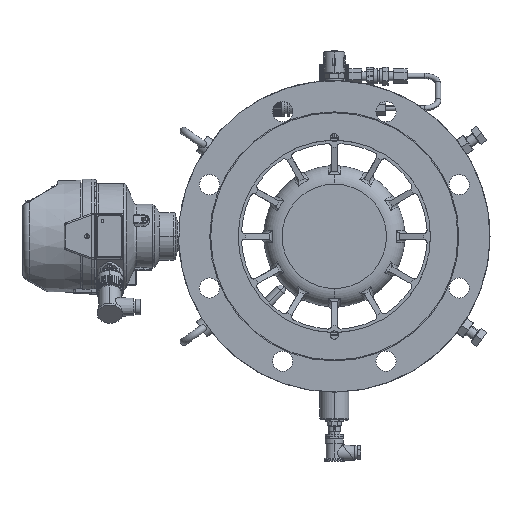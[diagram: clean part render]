
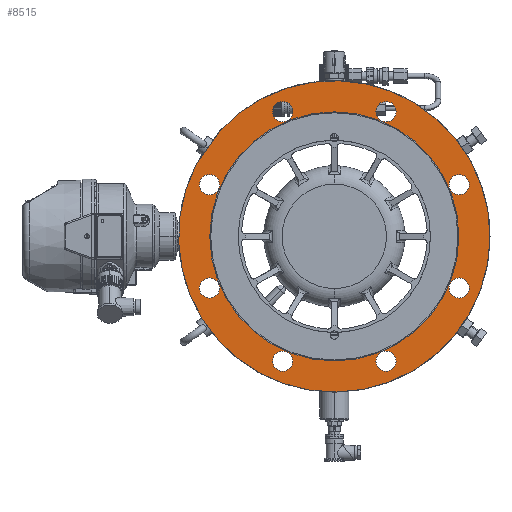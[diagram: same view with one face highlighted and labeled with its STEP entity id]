
A CAD part, left-side view. The second image highlights one B-rep face of the part: STEP entity #8515.
In plain terms, the highlighted planar face has unit normal (-1, 0, 0).
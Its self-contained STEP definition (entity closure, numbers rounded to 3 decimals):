
#1270=CARTESIAN_POINT('',(-127.,0.,0.));
#1271=DIRECTION('',(-1.,0.,0.));
#1272=DIRECTION('',(0.,0.888,0.46));
#1273=AXIS2_PLACEMENT_3D('',#1270,#1271,#1272);
#1437=CARTESIAN_POINT('',(-127.,-56.446,136.272));
#1438=DIRECTION('',(1.,0.,0.));
#1439=DIRECTION('',(0.,1.,0.));
#1440=AXIS2_PLACEMENT_3D('',#1437,#1438,#1439);
#1445=CARTESIAN_POINT('',(-127.,-56.446,136.272));
#1446=DIRECTION('',(1.,0.,0.));
#1447=DIRECTION('',(0.,-1.,0.));
#1448=AXIS2_PLACEMENT_3D('',#1445,#1446,#1447);
#1453=CARTESIAN_POINT('',(-127.,-136.272,56.446));
#1454=DIRECTION('',(1.,0.,0.));
#1455=DIRECTION('',(0.,1.,0.));
#1456=AXIS2_PLACEMENT_3D('',#1453,#1454,#1455);
#1461=CARTESIAN_POINT('',(-127.,-136.272,56.446));
#1462=DIRECTION('',(1.,0.,0.));
#1463=DIRECTION('',(0.,-1.,0.));
#1464=AXIS2_PLACEMENT_3D('',#1461,#1462,#1463);
#1469=CARTESIAN_POINT('',(-127.,-136.272,-56.446));
#1470=DIRECTION('',(1.,0.,0.));
#1471=DIRECTION('',(0.,1.,0.));
#1472=AXIS2_PLACEMENT_3D('',#1469,#1470,#1471);
#1477=CARTESIAN_POINT('',(-127.,-136.272,-56.446));
#1478=DIRECTION('',(1.,0.,0.));
#1479=DIRECTION('',(0.,-1.,0.));
#1480=AXIS2_PLACEMENT_3D('',#1477,#1478,#1479);
#1485=CARTESIAN_POINT('',(-127.,-56.446,-136.272));
#1486=DIRECTION('',(1.,0.,0.));
#1487=DIRECTION('',(0.,1.,0.));
#1488=AXIS2_PLACEMENT_3D('',#1485,#1486,#1487);
#1493=CARTESIAN_POINT('',(-127.,-56.446,-136.272));
#1494=DIRECTION('',(1.,0.,0.));
#1495=DIRECTION('',(0.,-1.,0.));
#1496=AXIS2_PLACEMENT_3D('',#1493,#1494,#1495);
#1501=CARTESIAN_POINT('',(-127.,56.446,-136.272));
#1502=DIRECTION('',(1.,0.,0.));
#1503=DIRECTION('',(0.,1.,0.));
#1504=AXIS2_PLACEMENT_3D('',#1501,#1502,#1503);
#1509=CARTESIAN_POINT('',(-127.,56.446,-136.272));
#1510=DIRECTION('',(1.,0.,0.));
#1511=DIRECTION('',(0.,-1.,0.));
#1512=AXIS2_PLACEMENT_3D('',#1509,#1510,#1511);
#1517=CARTESIAN_POINT('',(-127.,136.272,-56.446));
#1518=DIRECTION('',(1.,0.,0.));
#1519=DIRECTION('',(0.,1.,0.));
#1520=AXIS2_PLACEMENT_3D('',#1517,#1518,#1519);
#1525=CARTESIAN_POINT('',(-127.,136.272,-56.446));
#1526=DIRECTION('',(1.,0.,0.));
#1527=DIRECTION('',(0.,-1.,0.));
#1528=AXIS2_PLACEMENT_3D('',#1525,#1526,#1527);
#1533=CARTESIAN_POINT('',(-127.,136.272,56.446));
#1534=DIRECTION('',(1.,0.,0.));
#1535=DIRECTION('',(0.,1.,0.));
#1536=AXIS2_PLACEMENT_3D('',#1533,#1534,#1535);
#1541=CARTESIAN_POINT('',(-127.,136.272,56.446));
#1542=DIRECTION('',(1.,0.,0.));
#1543=DIRECTION('',(0.,-1.,0.));
#1544=AXIS2_PLACEMENT_3D('',#1541,#1542,#1543);
#1549=CARTESIAN_POINT('',(-127.,56.446,136.272));
#1550=DIRECTION('',(1.,0.,0.));
#1551=DIRECTION('',(0.,1.,0.));
#1552=AXIS2_PLACEMENT_3D('',#1549,#1550,#1551);
#1557=CARTESIAN_POINT('',(-127.,56.446,136.272));
#1558=DIRECTION('',(1.,0.,0.));
#1559=DIRECTION('',(0.,-1.,0.));
#1560=AXIS2_PLACEMENT_3D('',#1557,#1558,#1559);
#1565=CARTESIAN_POINT('',(-127.,0.,0.));
#1566=DIRECTION('',(-1.,0.,0.));
#1567=DIRECTION('',(0.,1.,0.));
#1568=AXIS2_PLACEMENT_3D('',#1565,#1566,#1567);
#1573=CARTESIAN_POINT('',(-127.,0.,0.));
#1574=DIRECTION('',(-1.,0.,0.));
#1575=DIRECTION('',(0.,-1.,0.));
#1576=AXIS2_PLACEMENT_3D('',#1573,#1574,#1575);
#1581=DIRECTION('',(0.,0.574,-0.819));
#1582=VECTOR('',#1581,45.067);
#1583=CARTESIAN_POINT('',(-127.,125.103,115.106));
#1584=LINE('1099',#1583,#1582);
#7214=CARTESIAN_POINT('',(-127.,67.446,136.272));
#7215=CARTESIAN_POINT('',(-127.,45.446,136.272));
#7216=VERTEX_POINT('',#7214);
#7217=VERTEX_POINT('',#7215);
#7230=CARTESIAN_POINT('',(-127.,147.272,56.446));
#7231=CARTESIAN_POINT('',(-127.,125.272,56.446));
#7232=VERTEX_POINT('',#7230);
#7233=VERTEX_POINT('',#7231);
#7246=CARTESIAN_POINT('',(-127.,147.272,-56.446));
#7247=CARTESIAN_POINT('',(-127.,125.272,-56.446));
#7248=VERTEX_POINT('',#7246);
#7249=VERTEX_POINT('',#7247);
#7262=CARTESIAN_POINT('',(-127.,67.446,-136.272));
#7263=CARTESIAN_POINT('',(-127.,45.446,-136.272));
#7264=VERTEX_POINT('',#7262);
#7265=VERTEX_POINT('',#7263);
#7314=CARTESIAN_POINT('',(-127.,-136.,0.));
#7315=CARTESIAN_POINT('',(-127.,136.,0.));
#7316=VERTEX_POINT('',#7314);
#7317=VERTEX_POINT('',#7315);
#7338=CARTESIAN_POINT('',(-127.,-45.446,-136.272));
#7339=CARTESIAN_POINT('',(-127.,-67.446,-136.272));
#7340=VERTEX_POINT('',#7338);
#7341=VERTEX_POINT('',#7339);
#7354=CARTESIAN_POINT('',(-127.,-125.272,-56.446));
#7355=CARTESIAN_POINT('',(-127.,-147.272,-56.446));
#7356=VERTEX_POINT('',#7354);
#7357=VERTEX_POINT('',#7355);
#7370=CARTESIAN_POINT('',(-127.,-125.272,56.446));
#7371=CARTESIAN_POINT('',(-127.,-147.272,56.446));
#7372=VERTEX_POINT('',#7370);
#7373=VERTEX_POINT('',#7371);
#7386=CARTESIAN_POINT('',(-127.,-45.446,136.272));
#7387=CARTESIAN_POINT('',(-127.,-67.446,136.272));
#7388=VERTEX_POINT('',#7386);
#7389=VERTEX_POINT('',#7387);
#7956=CARTESIAN_POINT('',(-127.,150.952,78.189));
#7957=VERTEX_POINT('',#7956);
#7958=CARTESIAN_POINT('',(-127.,125.103,115.106));
#7959=VERTEX_POINT('',#7958);
#8451=CARTESIAN_POINT('',(-127.,0.,0.));
#8452=DIRECTION('',(1.,0.,0.));
#8453=DIRECTION('',(0.,-1.,0.));
#8454=AXIS2_PLACEMENT_3D('',#8451,#8452,#8453);
#8455=PLANE('217',#8454);
#8456=ORIENTED_EDGE('1101',*,*,#8414,.F.);
#8458=ORIENTED_EDGE('1099',*,*,#8457,.F.);
#8459=EDGE_LOOP('217',(#8456,#8458));
#8460=FACE_OUTER_BOUND('217',#8459,.F.);
#8462=ORIENTED_EDGE('515',*,*,#8461,.F.);
#8464=ORIENTED_EDGE('516',*,*,#8463,.F.);
#8465=EDGE_LOOP('217',(#8462,#8464));
#8466=FACE_BOUND('217',#8465,.F.);
#8468=ORIENTED_EDGE('503',*,*,#8467,.F.);
#8470=ORIENTED_EDGE('504',*,*,#8469,.F.);
#8471=EDGE_LOOP('217',(#8468,#8470));
#8472=FACE_BOUND('217',#8471,.F.);
#8474=ORIENTED_EDGE('491',*,*,#8473,.F.);
#8476=ORIENTED_EDGE('492',*,*,#8475,.F.);
#8477=EDGE_LOOP('217',(#8474,#8476));
#8478=FACE_BOUND('217',#8477,.F.);
#8480=ORIENTED_EDGE('448',*,*,#8479,.F.);
#8482=ORIENTED_EDGE('449',*,*,#8481,.F.);
#8483=EDGE_LOOP('217',(#8480,#8482));
#8484=FACE_BOUND('217',#8483,.F.);
#8486=ORIENTED_EDGE('436',*,*,#8485,.F.);
#8488=ORIENTED_EDGE('437',*,*,#8487,.F.);
#8489=EDGE_LOOP('217',(#8486,#8488));
#8490=FACE_BOUND('217',#8489,.F.);
#8492=ORIENTED_EDGE('424',*,*,#8491,.F.);
#8494=ORIENTED_EDGE('425',*,*,#8493,.F.);
#8495=EDGE_LOOP('217',(#8492,#8494));
#8496=FACE_BOUND('217',#8495,.F.);
#8498=ORIENTED_EDGE('412',*,*,#8497,.F.);
#8500=ORIENTED_EDGE('413',*,*,#8499,.F.);
#8501=EDGE_LOOP('217',(#8498,#8500));
#8502=FACE_BOUND('217',#8501,.F.);
#8504=ORIENTED_EDGE('472',*,*,#8503,.T.);
#8506=ORIENTED_EDGE('474',*,*,#8505,.T.);
#8507=EDGE_LOOP('217',(#8504,#8506));
#8508=FACE_BOUND('217',#8507,.F.);
#8510=ORIENTED_EDGE('527',*,*,#8509,.F.);
#8512=ORIENTED_EDGE('528',*,*,#8511,.F.);
#8513=EDGE_LOOP('217',(#8510,#8512));
#8514=FACE_BOUND('217',#8513,.F.);
#1274=CIRCLE('1101',#1273,170.);
#1441=CIRCLE('527',#1440,11.);
#1449=CIRCLE('528',#1448,11.);
#1457=CIRCLE('515',#1456,11.);
#1465=CIRCLE('516',#1464,11.);
#1473=CIRCLE('503',#1472,11.);
#1481=CIRCLE('504',#1480,11.);
#1489=CIRCLE('491',#1488,11.);
#1497=CIRCLE('492',#1496,11.);
#1505=CIRCLE('448',#1504,11.);
#1513=CIRCLE('449',#1512,11.);
#1521=CIRCLE('436',#1520,11.);
#1529=CIRCLE('437',#1528,11.);
#1537=CIRCLE('424',#1536,11.);
#1545=CIRCLE('425',#1544,11.);
#1553=CIRCLE('412',#1552,11.);
#1561=CIRCLE('413',#1560,11.);
#1569=CIRCLE('472',#1568,136.);
#1577=CIRCLE('474',#1576,136.);
#8414=EDGE_CURVE('1101',#7957,#7959,#1274,.T.);
#8457=EDGE_CURVE('1099',#7959,#7957,#1584,.T.);
#8461=EDGE_CURVE('515',#7372,#7373,#1457,.T.);
#8463=EDGE_CURVE('516',#7373,#7372,#1465,.T.);
#8467=EDGE_CURVE('503',#7356,#7357,#1473,.T.);
#8469=EDGE_CURVE('504',#7357,#7356,#1481,.T.);
#8473=EDGE_CURVE('491',#7340,#7341,#1489,.T.);
#8475=EDGE_CURVE('492',#7341,#7340,#1497,.T.);
#8479=EDGE_CURVE('448',#7264,#7265,#1505,.T.);
#8481=EDGE_CURVE('449',#7265,#7264,#1513,.T.);
#8485=EDGE_CURVE('436',#7248,#7249,#1521,.T.);
#8487=EDGE_CURVE('437',#7249,#7248,#1529,.T.);
#8491=EDGE_CURVE('424',#7232,#7233,#1537,.T.);
#8493=EDGE_CURVE('425',#7233,#7232,#1545,.T.);
#8497=EDGE_CURVE('412',#7216,#7217,#1553,.T.);
#8499=EDGE_CURVE('413',#7217,#7216,#1561,.T.);
#8503=EDGE_CURVE('472',#7317,#7316,#1569,.T.);
#8505=EDGE_CURVE('474',#7316,#7317,#1577,.T.);
#8509=EDGE_CURVE('527',#7388,#7389,#1441,.T.);
#8511=EDGE_CURVE('528',#7389,#7388,#1449,.T.);
#8515=ADVANCED_FACE('217',(#8460,#8466,#8472,#8478,#8484,#8490,#8496,#8502,
#8508,#8514),#8455,.F.);
